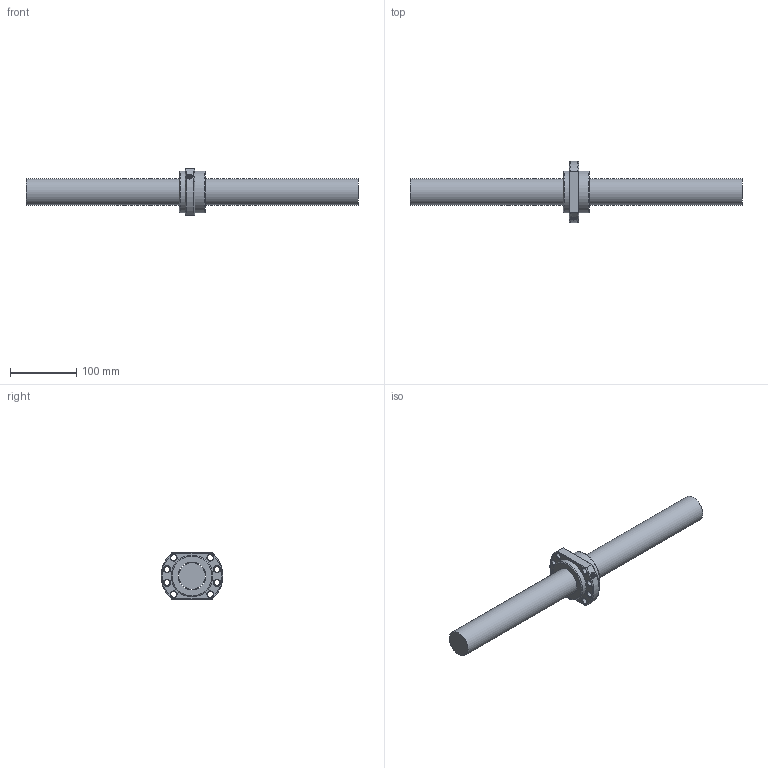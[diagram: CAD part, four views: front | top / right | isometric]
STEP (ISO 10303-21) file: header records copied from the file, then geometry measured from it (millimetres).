
FILE_DESCRIPTION (( 'STEP AP203' ), '1' );
FILE_NAME ('SFA4005-3.8.step', '2024-05-07T07:25:56', ( '' ), ( '' ), 'SwSTEP 2.0', 'SolidWorks 2022', '' );
FILE_SCHEMA (( 'CONFIG_CONTROL_DESIGN' ));
Length unit declared in the file: millimetre
Products named in the file (1): SFA4005-3.8
Bounding box: 500 x 93 x 70 mm (x, y, z)
Volume: 725205.9 mm3; surface area: 90156.6 mm2
Topology: 2 solids, 2 shells, 64 faces, 152 edges, 95 vertices
Faces by surface type: cylinder 23, cone 17, plane 14, torus 6, bspline 4
Full cylindrical faces by diameter (mm): 1.5 x1, 6 x1, 7 x6, 9 x8, 40 x1, 42.1 x1, 63 x2
Entity records: 3524 total; most frequent: CARTESIAN_POINT 2277, DIRECTION 234, ORIENTED_EDGE 192, EDGE_LOOP 116, AXIS2_PLACEMENT_3D 109, EDGE_CURVE 96, VERTEX_POINT 80, FACE_OUTER_BOUND 76
